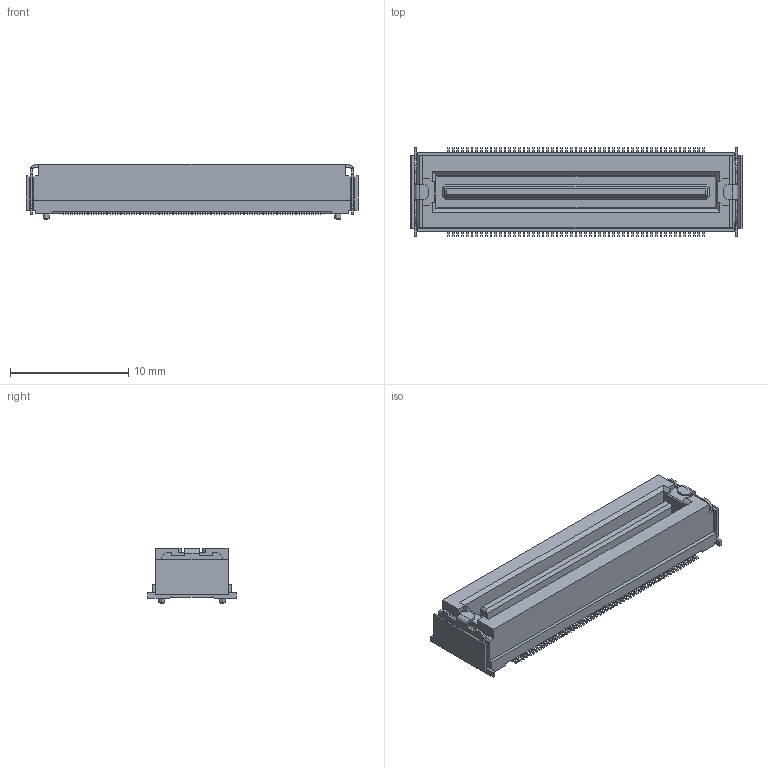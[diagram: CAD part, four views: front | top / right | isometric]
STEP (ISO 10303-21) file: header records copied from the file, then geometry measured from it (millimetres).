
FILE_DESCRIPTION(('Creo Elements/Direct Modeling STEP Export'),'2;1');
FILE_NAME('P3D161_DU01-110SB.stp','2017-11-27T15:53:07',(''),(''),'Creo Elements/Direct Modeling STEP processor for AP214 (Solid Model)','Creo Elements/Direct Modeling 19.0F 14-Feb-2017 (C) Parametric Technology GmbH','');
FILE_SCHEMA(('AUTOMOTIVE_DESIGN { 1 0 10303 214 1 1 1 1 }'));
Length unit declared in the file: millimetre
Products named in the file (2): DU01-110SB
Assembly tree (1 placements, depth 2):
  DU01-110SB
    DU01-110SB
Bounding box: 28.1 x 7.5 x 4.7 mm (x, y, z)
Volume: 558.7 mm3; surface area: 1004.6 mm2
Topology: 1 solids, 1 shells, 1139 faces, 3213 edges, 2134 vertices
Faces by surface type: plane 895, cylinder 240, cone 4
Entity records: 36473 total; most frequent: CARTESIAN_POINT 6477, ORIENTED_EDGE 6426, DIRECTION 5961, EDGE_CURVE 3213, VECTOR 2725, LINE 2725, VERTEX_POINT 2134, AXIS2_PLACEMENT_3D 1618
